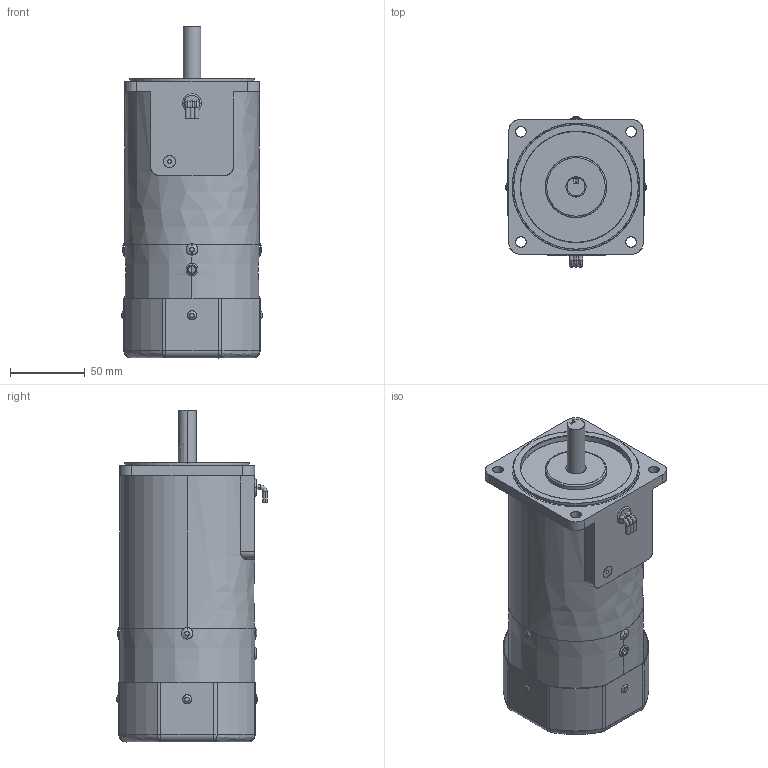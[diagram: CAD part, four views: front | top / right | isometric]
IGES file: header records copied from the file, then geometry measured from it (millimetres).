
Start section: SolidWorks IGES file using analytic representation for surfaces
Bounding box: 94 x 100.5 x 221.5 mm (x, y, z)
Surface area: 181707.9 mm2 (no closed solid volume)
Topology: 0 solids, 0 shells, 288 faces, 6143 edges, 6127 vertices
Faces by surface type: revolution 162, bspline 126
